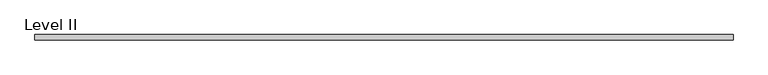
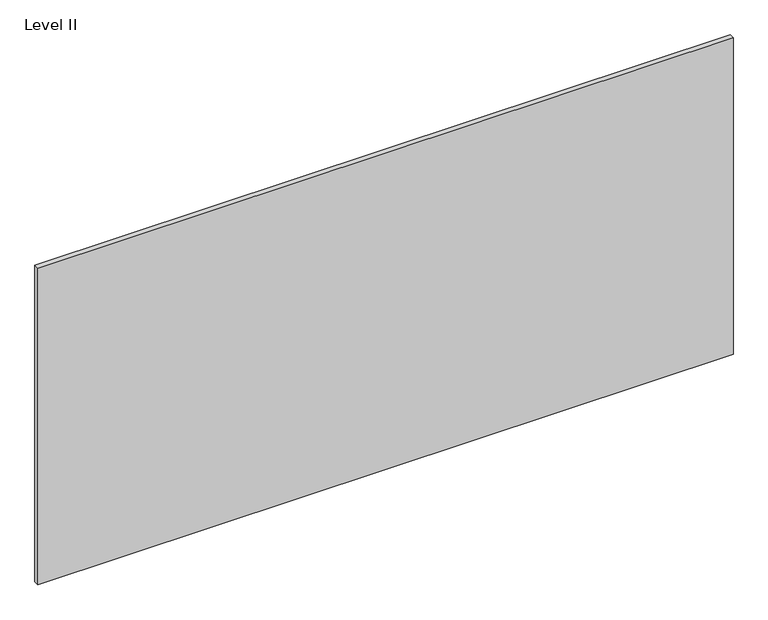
"""IFC4 building model written with IfcOpenShell, lengths in millimetres: proxy geometry, Panel-Fascia-Teknion-Altos-Landscape : Level II."""

import ifcopenshell
import ifcopenshell.guid

model = None  # the IFC model being written
_history = None  # IfcOwnerHistory: only IFC2X3 demands one
_inside = {}  # id of a spatial element -> (the spatial element, [elements in it])
_under = {}  # id of a project, library or spatial element -> (it, [spatial elements below it])
_declared = {}  # id of a project -> (the project, [libraries it declares])
_typed = {}  # id of a type object -> (the type object, [elements of that type])
_made_of = {}  # id of a material, layer set ... -> (it, [elements and type objects made of it])


def new_model(schema):
    """Start an empty IFC model of exactly this schema.

    Asked for "IFC4X3", IfcOpenShell would pick the latest addendum, in which some entities
    have other attributes; the version numbers below select the first issue.
    IFC2X3 requires an IfcOwnerHistory on every rooted entity: one is made here for all.
    """
    global model, _history
    if schema == "IFC4X3":
        model = ifcopenshell.file(schema_version=(4, 3, 0, 0))
    else:
        model = ifcopenshell.file(schema=schema)
    _inside.clear()
    _under.clear()
    _declared.clear()
    _typed.clear()
    _made_of.clear()
    _history = None
    if model.schema == "IFC2X3":
        org = make("IfcOrganization", Name="unknown")
        user = make(
            "IfcPersonAndOrganization",
            ThePerson=make("IfcPerson", FamilyName="unknown"),
            TheOrganization=org,
        )
        app = make(
            "IfcApplication",
            ApplicationDeveloper=org,
            Version="unknown",
            ApplicationFullName="unknown",
            ApplicationIdentifier="unknown",
        )
        _history = make(
            "IfcOwnerHistory",
            OwningUser=user,
            OwningApplication=app,
            ChangeAction="ADDED",
            CreationDate=0,
        )
    return model


def make(cls, **values):
    """One entity of the class cls with the attributes given. An attribute that is None is left unset."""
    return model.create_entity(
        cls, **{name: value for name, value in values.items() if value is not None}
    )


def rooted(cls, **values):
    """An entity with a GlobalId (a new one), such as an element, a storey or a relation."""
    return make(cls, GlobalId=ifcopenshell.guid.new(), OwnerHistory=_history, **values)


def si_unit(unit_type, name, prefix=None):
    """IfcSIUnit, for example si_unit("LENGTHUNIT", "METRE", prefix="MILLI")."""
    return make("IfcSIUnit", UnitType=unit_type, Prefix=prefix, Name=name)


def assignment(units):
    """IfcUnitAssignment: the units of a project."""
    return None if units is None else make("IfcUnitAssignment", Units=units)


def point(xyz):
    """IfcCartesianPoint."""
    return None if xyz is None else make("IfcCartesianPoint", Coordinates=xyz)


def direction(xyz):
    """IfcDirection."""
    return None if xyz is None else make("IfcDirection", DirectionRatios=xyz)


def frame(location, z_axis=None, x_axis=None):
    """IfcAxis2Placement3D, a coordinate frame: its origin and axes. An axis left out is left unset."""
    return make(
        "IfcAxis2Placement3D",
        Location=point(location),
        Axis=direction(z_axis),
        RefDirection=direction(x_axis),
    )


def origin():
    """The frame at (0, 0, 0) with its axes left unset."""
    return frame((0.0, 0.0, 0.0))


def place(relative_to, where):
    """IfcLocalPlacement: puts the frame where relative to a parent placement (None: the world)."""
    return make(
        "IfcLocalPlacement", PlacementRelTo=relative_to, RelativePlacement=where
    )


def context(
    kind, dimensions, precision=None, world=None, true_north=None, identifier=None
):
    """IfcGeometricRepresentationContext, for example the 3D "Model" context."""
    return make(
        "IfcGeometricRepresentationContext",
        ContextIdentifier=identifier,
        ContextType=kind,
        CoordinateSpaceDimension=dimensions,
        Precision=precision,
        WorldCoordinateSystem=world,
        TrueNorth=true_north,
    )


def project(units=None, contexts=None):
    """IfcProject with its units and contexts."""
    return rooted(
        "IfcProject",
        Name="project",
        RepresentationContexts=contexts,
        UnitsInContext=assignment(units),
    )


def spatial(cls, under=None, at=None, **own):
    """A site, building, storey or space (cls), placed at a placement, below another one or the project."""
    s = rooted(cls, ObjectPlacement=at, **own)
    if under is not None:
        _under.setdefault(under.id(), (under, []))[1].append(s)
    return s


def polyline(points):
    """IfcPolyline through the points."""
    return make("IfcPolyline", Points=[point(p) for p in points])


def outline(outer, holes=None, kind="AREA"):
    """IfcArbitraryClosedProfileDef: a profile drawn as a closed curve; with holes, ...WithVoids."""
    if holes is None:
        return make("IfcArbitraryClosedProfileDef", ProfileType=kind, OuterCurve=outer)
    return make(
        "IfcArbitraryProfileDefWithVoids",
        ProfileType=kind,
        OuterCurve=outer,
        InnerCurves=holes,
    )


def extrude(swept, where, along, depth):
    """IfcExtrudedAreaSolid: the profile swept, set in the frame where, extruded along a direction by depth."""
    return make(
        "IfcExtrudedAreaSolid",
        SweptArea=swept,
        Position=where,
        ExtrudedDirection=direction(along),
        Depth=depth,
    )


def shape(context_of_items, identifier, shape_type, items):
    """IfcShapeRepresentation: the items that make up one representation, for example the "Body"."""
    return make(
        "IfcShapeRepresentation",
        ContextOfItems=context_of_items,
        RepresentationIdentifier=identifier,
        RepresentationType=shape_type,
        Items=items,
    )


def source(mapping_origin, context_of_items, identifier, shape_type, items):
    """IfcRepresentationMap: a shape defined once, which mapped items show again and again."""
    return make(
        "IfcRepresentationMap",
        MappingOrigin=mapping_origin,
        MappedRepresentation=shape(context_of_items, identifier, shape_type, items),
    )


def transform(
    local_origin,
    x_axis=None,
    y_axis=None,
    z_axis=None,
    scale=None,
    scale2=None,
    scale3=None,
    uniform=True,
):
    """IfcCartesianTransformationOperator3D, or its non-uniform kind. x_axis, y_axis, z_axis: its Axis1, 2, 3."""
    if uniform:
        return make(
            "IfcCartesianTransformationOperator3D",
            Axis1=direction(x_axis),
            Axis2=direction(y_axis),
            LocalOrigin=point(local_origin),
            Scale=scale,
            Axis3=direction(z_axis),
        )
    return make(
        "IfcCartesianTransformationOperator3DnonUniform",
        Axis1=direction(x_axis),
        Axis2=direction(y_axis),
        LocalOrigin=point(local_origin),
        Scale=scale,
        Axis3=direction(z_axis),
        Scale2=scale2,
        Scale3=scale3,
    )


def mapped(mapping_source, mapping_target):
    """IfcMappedItem: shows the shape of a source again, moved by a transform."""
    return make(
        "IfcMappedItem", MappingSource=mapping_source, MappingTarget=mapping_target
    )


def made_of(thing, what):
    """Note that an element or type object is made of a material, layer set ...; save() writes the relation."""
    if what is not None:
        _made_of.setdefault(what.id(), (what, []))[1].append(thing)
    return thing


def element(
    cls,
    number,
    at=None,
    inside=None,
    cuts=None,
    type_object=None,
    material=None,
    context=None,
    identifier="Body",
    shape_type=None,
    held_by="IfcProductDefinitionShape",
    body=None,
    shapes=None,
    **own,
):
    """One element of the class cls, such as IfcWall. Its Tag is "e" and its number.

    at: its placement. inside: the storey or other place that contains it. cuts: it is an
    opening in that element (IfcRelVoidsElement). A single representation is given by context,
    identifier, shape_type and body (its items); several are given by shapes. held_by: the class
    of the entity that holds the representations. save() writes the other relations.
    """
    e = rooted(cls, Tag="e%d" % number, ObjectPlacement=at, **own)
    if body is not None:
        shapes = [shape(context, identifier, shape_type, body)]
    if shapes is not None:
        e.Representation = make(held_by, Representations=shapes)
    if inside is not None:
        _inside.setdefault(inside.id(), (inside, []))[1].append(e)
    if cuts is not None:
        rooted(
            "IfcRelVoidsElement", RelatingBuildingElement=cuts, RelatedOpeningElement=e
        )
    if type_object is not None:
        _typed.setdefault(type_object.id(), (type_object, []))[1].append(e)
    return made_of(e, material)


def aggregate(whole, parts):
    """IfcRelAggregates: a whole, such as a stair, and the parts it consists of."""
    return rooted("IfcRelAggregates", RelatingObject=whole, RelatedObjects=parts)


def save(model, path):
    """Write the relations noted so far, then the file.

    IfcRelAggregates (storeys below a building ...), IfcRelContainedInSpatialStructure (elements
    in a storey), IfcRelDefinesByType, IfcRelAssociatesMaterial and IfcRelDeclares: one each for
    every whole, place, type object, material and project.
    """
    for whole, parts in _under.values():
        aggregate(whole, parts)
    for where, things in _inside.values():
        rooted(
            "IfcRelContainedInSpatialStructure",
            RelatedElements=things,
            RelatingStructure=where,
        )
    for kind, things in _typed.values():
        rooted("IfcRelDefinesByType", RelatedObjects=things, RelatingType=kind)
    for what, things in _made_of.values():
        rooted("IfcRelAssociatesMaterial", RelatedObjects=things, RelatingMaterial=what)
    for by, libraries in _declared.values():
        rooted("IfcRelDeclares", RelatingContext=by, RelatedDefinitions=libraries)
    model.write(path)


def level_ii_c1ed75fc(model_context):
    return source(origin(), model_context, "Body", "SweptSolid", [
        extrude(outline(polyline([(1259.8356344, 9.525), (1259.8356344, -9.525), (-1259.8356344, -9.525), (-1259.8356344, 9.525), (1259.8356344, 9.525)])), frame((0.0, 0.0, 3.175), z_axis=(0.0, 0.0, 1.0), x_axis=(1.0, 0.0, 0.0)), (0.0, 0.0, 1.0), 1212.85),
    ])


if __name__ == "__main__":
    model = new_model("IFC4")
    model_context = context("Model", 3, world=origin())
    ifc_project = project(units=[si_unit("LENGTHUNIT", "METRE", prefix="MILLI")], contexts=[model_context])
    site = spatial("IfcSite", under=ifc_project)
    building = spatial("IfcBuilding", under=site)
    placement = place(None, origin())
    level_ii_shape = level_ii_c1ed75fc(model_context)
    element("IfcBuildingElementProxy", 1, Name="Panel-Fascia-Teknion-Altos-Landscape : Level II", ObjectType="Panel-Fascia-Teknion-Altos-Landscape : Level II", at=placement, inside=building, context=model_context, shape_type="MappedRepresentation", body=[
        mapped(level_ii_shape, transform((0.0, 0.0, 0.0), x_axis=(1.0, 0.0, 0.0), y_axis=(0.0, 1.0, 0.0), z_axis=(0.0, 0.0, 1.0))),
    ])
    save(model, "model.ifc")
